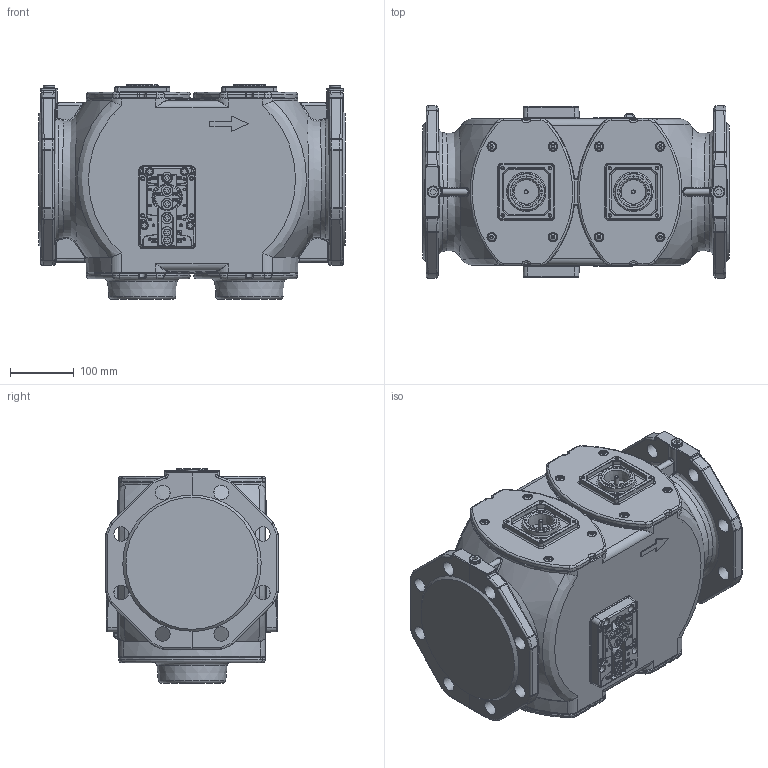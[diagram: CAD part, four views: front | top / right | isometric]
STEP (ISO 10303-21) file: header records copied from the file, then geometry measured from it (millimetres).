
FILE_DESCRIPTION(/* description */ (''),/* implementation_level */ '2;1');
FILE_NAME(/* name */ 'A5W00027909_02.stp',/* time_stamp */ '2018-07-02T08:51:06+02:00',/* author */ (''),/* organization */ (''),/* preprocessor_version */ 'ST-DEVELOPER v16',/* originating_system */ 'SIEMENS PLM Software NX 10.0',/* authorisation */ '');
FILE_SCHEMA (('AUTOMOTIVE_DESIGN { 1 0 10303 214 3 1 1 1 }'));
Products named in the file (1): Gant1984025587ff
Bounding box: 480 x 270 x 336 mm (x, y, z)
Volume: 28282548.9 mm3; surface area: 805600.3 mm2
Topology: 1 solids, 5 shells, 2981 faces, 7263 edges, 4489 vertices
Faces by surface type: plane 1009, cylinder 922, bspline 353, cone 286, torus 230, extrusion 120, sphere 61
Full cylindrical faces by diameter (mm): 4.351 x8, 6 x4, 10 x8, 10.5 x12, 11 x12, 13 x16, 13.5 x2, 14 x16, 18 x2, 18.5 x2, 23 x16, 50 x2
Entity records: 97719 total; most frequent: CARTESIAN_POINT 33047, ORIENTED_EDGE 13230, DIRECTION 12856, EDGE_CURVE 6615, AXIS2_PLACEMENT_3D 4992, VERTEX_POINT 4319, EDGE_LOOP 3682, ADVANCED_FACE 2981
